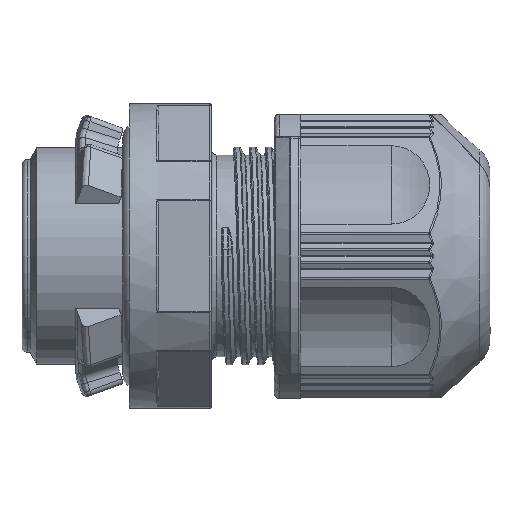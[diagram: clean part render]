
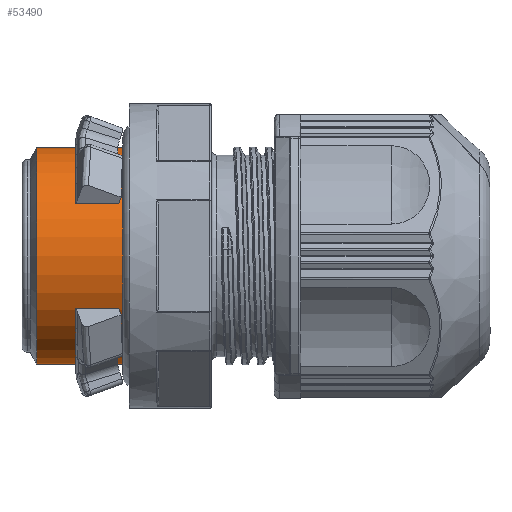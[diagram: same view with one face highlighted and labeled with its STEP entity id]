
A CAD part, front view. The second image highlights one B-rep face of the part: STEP entity #53490.
In plain terms, the highlighted cylindrical face has radius 10.3 mm (diameter 20.6 mm), a partial arc.
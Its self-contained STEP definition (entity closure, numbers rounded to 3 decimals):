
#11330=CARTESIAN_POINT('',(66.274,62.739,
0.));
#11340=VERTEX_POINT('',#11330);
#11370=CARTESIAN_POINT('',(66.274,62.739,
0.));
#11380=DIRECTION('',(-1.,0.,0.));
#11390=VECTOR('',#11380,1.);
#11400=LINE('',#11370,#11390);
#11410=CARTESIAN_POINT('',(57.46,62.739,
0.));
#11420=VERTEX_POINT('',#11410);
#11430=EDGE_CURVE('',#11340,#11420,#11400,.T.);
#16910=CARTESIAN_POINT('',(57.46,42.139,
0.));
#16920=VERTEX_POINT('',#16910);
#16950=CARTESIAN_POINT('',(57.46,42.139,
0.));
#16960=DIRECTION('',(1.,0.,0.));
#16970=VECTOR('',#16960,1.);
#16980=LINE('',#16950,#16970);
#16990=CARTESIAN_POINT('',(66.274,42.139,
0.));
#17000=VERTEX_POINT('',#16990);
#17010=EDGE_CURVE('',#16920,#17000,#16980,.T.);
#53200=CARTESIAN_POINT('',(57.46,52.439,
0.));
#53210=DIRECTION('',(-1.,0.,0.));
#53220=DIRECTION('',(0.,-1.,0.));
#53230=AXIS2_PLACEMENT_3D('',#53200,#53210,#53220);
#53240=CIRCLE('',#53230,10.3);
#53250=EDGE_CURVE('',#16920,#11420,#53240,.T.);
#53320=CARTESIAN_POINT('',(77.81,52.439,0.));
#53330=DIRECTION('',(1.,0.,0.));
#53340=DIRECTION('',(0.,0.,-1.));
#53350=AXIS2_PLACEMENT_3D('',#53320,#53330,#53340);
#53360=CYLINDRICAL_SURFACE('',#53350,10.3);
#53370=ORIENTED_EDGE('',*,*,#53250,.F.);
#53380=ORIENTED_EDGE('',*,*,#11430,.T.);
#53390=CARTESIAN_POINT('',(66.274,52.439,
0.));
#53400=DIRECTION('',(1.,0.,0.));
#53410=DIRECTION('',(0.,0.,1.));
#53420=AXIS2_PLACEMENT_3D('',#53390,#53400,#53410);
#53430=CIRCLE('',#53420,10.3);
#53440=EDGE_CURVE('',#11340,#17000,#53430,.T.);
#53450=ORIENTED_EDGE('',*,*,#53440,.F.);
#53460=ORIENTED_EDGE('',*,*,#17010,.T.);
#53470=EDGE_LOOP('',(#53460,#53450,#53380,#53370));
#53480=FACE_OUTER_BOUND('',#53470,.T.);
#53490=ADVANCED_FACE('',(#53480),#53360,.T.);
